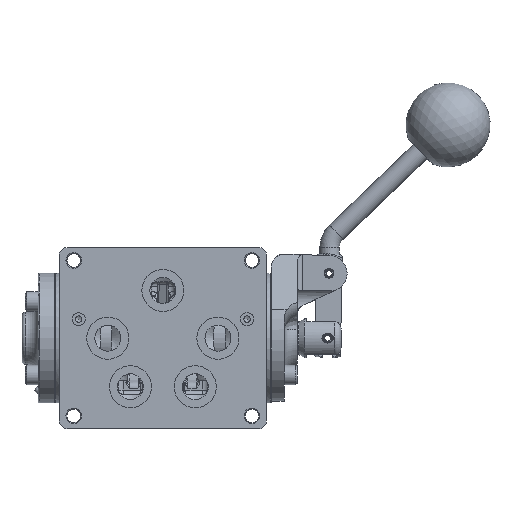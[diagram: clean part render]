
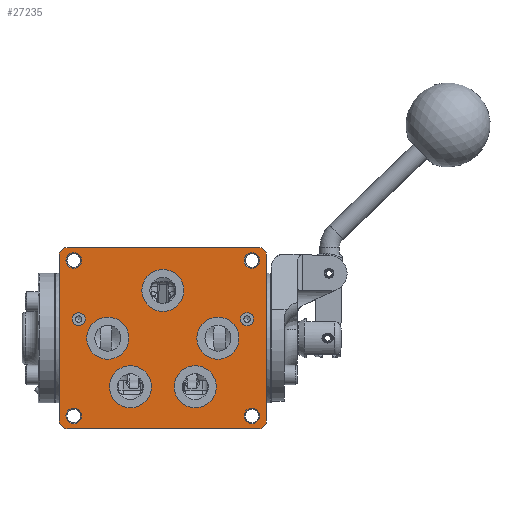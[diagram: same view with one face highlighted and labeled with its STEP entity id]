
A CAD part, front view. The second image highlights one B-rep face of the part: STEP entity #27235.
In plain terms, the highlighted planar face has unit normal (0, -1, 0).
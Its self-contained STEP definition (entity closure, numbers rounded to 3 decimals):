
#1797=FACE_BOUND('',#5692,.T.);
#1798=FACE_BOUND('',#5693,.T.);
#1799=FACE_BOUND('',#5694,.T.);
#1800=FACE_BOUND('',#5695,.T.);
#1801=FACE_BOUND('',#5696,.T.);
#1802=FACE_BOUND('',#5697,.T.);
#1803=FACE_BOUND('',#5698,.T.);
#1804=FACE_BOUND('',#5699,.T.);
#1805=FACE_BOUND('',#5700,.T.);
#1806=FACE_BOUND('',#5701,.T.);
#1807=FACE_BOUND('',#5702,.T.);
#2610=PLANE('',#29603);
#3974=FACE_OUTER_BOUND('',#5691,.T.);
#5691=EDGE_LOOP('',(#22692,#22693,#22694,#22695,#22696,#22697,#22698,#22699));
#5692=EDGE_LOOP('',(#22700));
#5693=EDGE_LOOP('',(#22701));
#5694=EDGE_LOOP('',(#22702));
#5695=EDGE_LOOP('',(#22703));
#5696=EDGE_LOOP('',(#22704));
#5697=EDGE_LOOP('',(#22705));
#5698=EDGE_LOOP('',(#22706));
#5699=EDGE_LOOP('',(#22707));
#5700=EDGE_LOOP('',(#22708));
#5701=EDGE_LOOP('',(#22709));
#5702=EDGE_LOOP('',(#22710));
#6769=CIRCLE('',#29050,0.397);
#6770=CIRCLE('',#29053,0.397);
#6991=CIRCLE('',#29598,0.397);
#6992=CIRCLE('',#29601,0.397);
#6993=CIRCLE('',#29604,0.318);
#6994=CIRCLE('',#29605,0.318);
#6995=CIRCLE('',#29606,1.031);
#6996=CIRCLE('',#29607,1.031);
#6997=CIRCLE('',#29608,1.031);
#6998=CIRCLE('',#29609,1.031);
#6999=CIRCLE('',#29610,1.031);
#7000=CIRCLE('',#29611,0.381);
#7001=CIRCLE('',#29612,0.381);
#7002=CIRCLE('',#29613,0.381);
#7003=CIRCLE('',#29614,0.381);
#8007=LINE('',#44090,#9410);
#8037=LINE('',#44345,#9440);
#8539=LINE('',#58498,#9942);
#8542=LINE('',#58505,#9945);
#9410=VECTOR('',#33678,1.);
#9440=VECTOR('',#33780,1.);
#9942=VECTOR('',#35378,1.);
#9945=VECTOR('',#35387,1.);
#11279=VERTEX_POINT('',#44088);
#11280=VERTEX_POINT('',#44089);
#11334=VERTEX_POINT('',#44338);
#11335=VERTEX_POINT('',#44339);
#11336=VERTEX_POINT('',#44344);
#12192=VERTEX_POINT('',#58493);
#12193=VERTEX_POINT('',#58497);
#12194=VERTEX_POINT('',#58501);
#12195=VERTEX_POINT('',#58507);
#12196=VERTEX_POINT('',#58509);
#12197=VERTEX_POINT('',#58511);
#12198=VERTEX_POINT('',#58513);
#12199=VERTEX_POINT('',#58515);
#12200=VERTEX_POINT('',#58517);
#12201=VERTEX_POINT('',#58519);
#12202=VERTEX_POINT('',#58521);
#12203=VERTEX_POINT('',#58523);
#12204=VERTEX_POINT('',#58525);
#12205=VERTEX_POINT('',#58527);
#14331=EDGE_CURVE('',#11279,#11280,#8007,.T.);
#14397=EDGE_CURVE('',#11334,#11335,#6769,.T.);
#14400=EDGE_CURVE('',#11335,#11336,#8037,.T.);
#14404=EDGE_CURVE('',#11336,#11279,#6770,.T.);
#15797=EDGE_CURVE('',#11280,#12192,#6991,.T.);
#15799=EDGE_CURVE('',#12192,#12193,#8539,.T.);
#15801=EDGE_CURVE('',#12193,#12194,#6992,.T.);
#15803=EDGE_CURVE('',#12194,#11334,#8542,.T.);
#15804=EDGE_CURVE('',#12195,#12195,#6993,.T.);
#15805=EDGE_CURVE('',#12196,#12196,#6994,.T.);
#15806=EDGE_CURVE('',#12197,#12197,#6995,.T.);
#15807=EDGE_CURVE('',#12198,#12198,#6996,.T.);
#15808=EDGE_CURVE('',#12199,#12199,#6997,.T.);
#15809=EDGE_CURVE('',#12200,#12200,#6998,.T.);
#15810=EDGE_CURVE('',#12201,#12201,#6999,.T.);
#15811=EDGE_CURVE('',#12202,#12202,#7000,.T.);
#15812=EDGE_CURVE('',#12203,#12203,#7001,.T.);
#15813=EDGE_CURVE('',#12204,#12204,#7002,.T.);
#15814=EDGE_CURVE('',#12205,#12205,#7003,.T.);
#22692=ORIENTED_EDGE('',*,*,#15797,.T.);
#22693=ORIENTED_EDGE('',*,*,#15799,.T.);
#22694=ORIENTED_EDGE('',*,*,#15801,.T.);
#22695=ORIENTED_EDGE('',*,*,#15803,.T.);
#22696=ORIENTED_EDGE('',*,*,#14397,.T.);
#22697=ORIENTED_EDGE('',*,*,#14400,.T.);
#22698=ORIENTED_EDGE('',*,*,#14404,.T.);
#22699=ORIENTED_EDGE('',*,*,#14331,.T.);
#22700=ORIENTED_EDGE('',*,*,#15804,.T.);
#22701=ORIENTED_EDGE('',*,*,#15805,.T.);
#22702=ORIENTED_EDGE('',*,*,#15806,.T.);
#22703=ORIENTED_EDGE('',*,*,#15807,.T.);
#22704=ORIENTED_EDGE('',*,*,#15808,.T.);
#22705=ORIENTED_EDGE('',*,*,#15809,.T.);
#22706=ORIENTED_EDGE('',*,*,#15810,.T.);
#22707=ORIENTED_EDGE('',*,*,#15811,.T.);
#22708=ORIENTED_EDGE('',*,*,#15812,.T.);
#22709=ORIENTED_EDGE('',*,*,#15813,.T.);
#22710=ORIENTED_EDGE('',*,*,#15814,.T.);
#27235=ADVANCED_FACE('',(#3974,#1797,#1798,#1799,#1800,#1801,#1802,#1803,
#1804,#1805,#1806,#1807),#2610,.T.);
#29050=AXIS2_PLACEMENT_3D('',#44340,#33774,#33775);
#29053=AXIS2_PLACEMENT_3D('',#44351,#33786,#33787);
#29598=AXIS2_PLACEMENT_3D('',#58494,#35373,#35374);
#29601=AXIS2_PLACEMENT_3D('',#58502,#35382,#35383);
#29603=AXIS2_PLACEMENT_3D('',#58506,#35388,#35389);
#29604=AXIS2_PLACEMENT_3D('',#58508,#35390,#35391);
#29605=AXIS2_PLACEMENT_3D('',#58510,#35392,#35393);
#29606=AXIS2_PLACEMENT_3D('',#58512,#35394,#35395);
#29607=AXIS2_PLACEMENT_3D('',#58514,#35396,#35397);
#29608=AXIS2_PLACEMENT_3D('',#58516,#35398,#35399);
#29609=AXIS2_PLACEMENT_3D('',#58518,#35400,#35401);
#29610=AXIS2_PLACEMENT_3D('',#58520,#35402,#35403);
#29611=AXIS2_PLACEMENT_3D('',#58522,#35404,#35405);
#29612=AXIS2_PLACEMENT_3D('',#58524,#35406,#35407);
#29613=AXIS2_PLACEMENT_3D('',#58526,#35408,#35409);
#29614=AXIS2_PLACEMENT_3D('',#58528,#35410,#35411);
#33678=DIRECTION('',(0.,0.,1.));
#33774=DIRECTION('center_axis',(0.,-1.,0.));
#33775=DIRECTION('ref_axis',(-0.707,0.,-0.707));
#33780=DIRECTION('',(1.,0.,0.));
#33786=DIRECTION('center_axis',(0.,-1.,0.));
#33787=DIRECTION('ref_axis',(0.707,0.,-0.707));
#35373=DIRECTION('center_axis',(0.,-1.,0.));
#35374=DIRECTION('ref_axis',(0.707,0.,0.707));
#35378=DIRECTION('',(-1.,0.,0.));
#35382=DIRECTION('center_axis',(0.,-1.,0.));
#35383=DIRECTION('ref_axis',(-0.707,0.,0.707));
#35387=DIRECTION('',(0.,0.,-1.));
#35388=DIRECTION('center_axis',(0.,-1.,0.));
#35389=DIRECTION('ref_axis',(0.,0.,-1.));
#35390=DIRECTION('center_axis',(0.,1.,0.));
#35391=DIRECTION('ref_axis',(1.,0.,0.));
#35392=DIRECTION('center_axis',(0.,1.,0.));
#35393=DIRECTION('ref_axis',(1.,0.,0.));
#35394=DIRECTION('center_axis',(0.,1.,0.));
#35395=DIRECTION('ref_axis',(1.,0.,0.));
#35396=DIRECTION('center_axis',(0.,1.,0.));
#35397=DIRECTION('ref_axis',(1.,0.,0.));
#35398=DIRECTION('center_axis',(0.,1.,0.));
#35399=DIRECTION('ref_axis',(1.,0.,0.));
#35400=DIRECTION('center_axis',(0.,1.,0.));
#35401=DIRECTION('ref_axis',(1.,0.,0.));
#35402=DIRECTION('center_axis',(0.,1.,0.));
#35403=DIRECTION('ref_axis',(1.,0.,0.));
#35404=DIRECTION('center_axis',(0.,1.,0.));
#35405=DIRECTION('ref_axis',(1.,0.,0.));
#35406=DIRECTION('center_axis',(0.,1.,0.));
#35407=DIRECTION('ref_axis',(1.,0.,0.));
#35408=DIRECTION('center_axis',(0.,1.,0.));
#35409=DIRECTION('ref_axis',(1.,0.,0.));
#35410=DIRECTION('center_axis',(0.,1.,0.));
#35411=DIRECTION('ref_axis',(1.,0.,0.));
#44088=CARTESIAN_POINT('',(5.08,-3.335,-4.048));
#44089=CARTESIAN_POINT('',(5.08,-3.335,4.048));
#44090=CARTESIAN_POINT('',(5.08,-3.335,-2.223));
#44338=CARTESIAN_POINT('',(-5.08,-3.335,-4.048));
#44339=CARTESIAN_POINT('',(-4.683,-3.335,-4.445));
#44340=CARTESIAN_POINT('Origin',(-4.683,-3.335,-4.048));
#44344=CARTESIAN_POINT('',(4.683,-3.335,-4.445));
#44345=CARTESIAN_POINT('',(0.087,-3.335,-4.445));
#44351=CARTESIAN_POINT('Origin',(4.683,-3.335,-4.048));
#58493=CARTESIAN_POINT('',(4.683,-3.335,4.445));
#58494=CARTESIAN_POINT('Origin',(4.683,-3.335,4.048));
#58497=CARTESIAN_POINT('',(-4.683,-3.335,4.445));
#58498=CARTESIAN_POINT('',(5.167,-3.335,4.445));
#58501=CARTESIAN_POINT('',(-5.08,-3.335,4.048));
#58502=CARTESIAN_POINT('Origin',(-4.683,-3.335,4.048));
#58505=CARTESIAN_POINT('',(-5.08,-3.335,2.223));
#58506=CARTESIAN_POINT('Origin',(5.254,-3.335,0.));
#58507=CARTESIAN_POINT('',(3.81,-3.335,0.935));
#58508=CARTESIAN_POINT('Origin',(4.128,-3.335,0.935));
#58509=CARTESIAN_POINT('',(-4.445,-3.335,0.935));
#58510=CARTESIAN_POINT('Origin',(-4.128,-3.335,0.935));
#58511=CARTESIAN_POINT('',(0.556,-3.335,-2.38));
#58512=CARTESIAN_POINT('Origin',(1.588,-3.335,-2.38));
#58513=CARTESIAN_POINT('',(-2.619,-3.335,-2.38));
#58514=CARTESIAN_POINT('Origin',(-1.588,-3.335,-2.38));
#58515=CARTESIAN_POINT('',(-1.031,-3.335,2.339));
#58516=CARTESIAN_POINT('Origin',(0.,-3.335,2.339));
#58517=CARTESIAN_POINT('',(1.668,-3.335,0.));
#58518=CARTESIAN_POINT('Origin',(2.699,-3.335,0.));
#58519=CARTESIAN_POINT('',(-3.73,-3.335,0.));
#58520=CARTESIAN_POINT('Origin',(-2.699,-3.335,0.));
#58521=CARTESIAN_POINT('',(3.985,-3.335,3.81));
#58522=CARTESIAN_POINT('Origin',(4.366,-3.335,3.81));
#58523=CARTESIAN_POINT('',(3.985,-3.335,-3.81));
#58524=CARTESIAN_POINT('Origin',(4.366,-3.335,-3.81));
#58525=CARTESIAN_POINT('',(-4.747,-3.335,-3.81));
#58526=CARTESIAN_POINT('Origin',(-4.366,-3.335,-3.81));
#58527=CARTESIAN_POINT('',(-4.747,-3.335,3.81));
#58528=CARTESIAN_POINT('Origin',(-4.366,-3.335,3.81));
